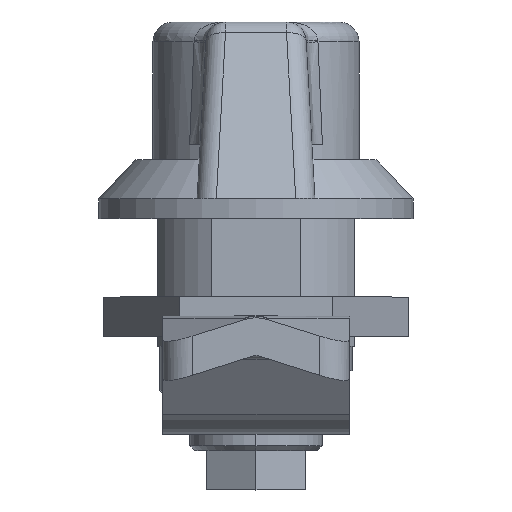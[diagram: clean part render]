
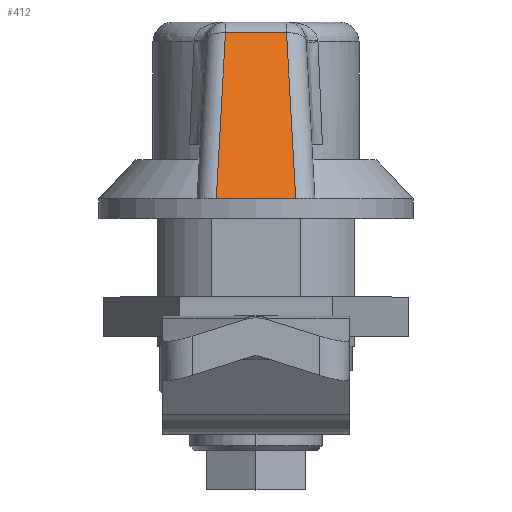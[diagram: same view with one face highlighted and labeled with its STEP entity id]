
A CAD part, top view. The second image highlights one B-rep face of the part: STEP entity #412.
In plain terms, the highlighted planar face has unit normal (0, 0.446, 0.895) as drawn and (-0.446, 0, 0.895) by its records, which use the part's own axes.
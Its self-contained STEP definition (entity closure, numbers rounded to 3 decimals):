
#62 = EDGE_CURVE ( 'NONE', #171, #2196, #4102, .T. ) ;
#171 = VERTEX_POINT ( 'NONE', #4827 ) ;
#356 = AXIS2_PLACEMENT_3D ( 'NONE', #6009, #4756, #3233 ) ;
#412 = ADVANCED_FACE ( 'NONE', ( #818 ), #1813, .F. ) ;
#603 = LINE ( 'NONE', #5228, #2036 ) ;
#628 = DIRECTION ( 'NONE',  ( 0., -1., 0. ) ) ;
#818 = FACE_OUTER_BOUND ( 'NONE', #3288, .T. ) ;
#1084 = DIRECTION ( 'NONE',  ( 0., -1., 0. ) ) ;
#1227 = EDGE_CURVE ( 'NONE', #3459, #5066, #5456, .T. ) ;
#1451 = CARTESIAN_POINT ( 'NONE',  ( -23.5, -4.046, 25. ) ) ;
#1629 = EDGE_CURVE ( 'NONE', #171, #5066, #603, .T. ) ;
#1813 = PLANE ( 'NONE',  #356 ) ;
#2036 = VECTOR ( 'NONE', #1084, 1000. ) ;
#2164 = VECTOR ( 'NONE', #4139, 1000. ) ;
#2196 = VERTEX_POINT ( 'NONE', #2841 ) ;
#2360 = ORIENTED_EDGE ( 'NONE', *, *, #62, .T. ) ;
#2841 = CARTESIAN_POINT ( 'NONE',  ( -40.392, 3.108, 16.578 ) ) ;
#3085 = CARTESIAN_POINT ( 'NONE',  ( -40.392, 6., 16.578 ) ) ;
#3108 = CARTESIAN_POINT ( 'NONE',  ( -41.902, -3.024, 15.825 ) ) ;
#3233 = DIRECTION ( 'NONE',  ( -0.895, 0., -0.446 ) ) ;
#3288 = EDGE_LOOP ( 'NONE', ( #4064, #2360, #3700, #3306 ) ) ;
#3306 = ORIENTED_EDGE ( 'NONE', *, *, #1227, .T. ) ;
#3459 = VERTEX_POINT ( 'NONE', #5077 ) ;
#3547 = VECTOR ( 'NONE', #628, 1000. ) ;
#3700 = ORIENTED_EDGE ( 'NONE', *, *, #5710, .T. ) ;
#4064 = ORIENTED_EDGE ( 'NONE', *, *, #1629, .F. ) ;
#4102 = LINE ( 'NONE', #4621, #2164 ) ;
#4139 = DIRECTION ( 'NONE',  ( -0.894, -0.05, -0.446 ) ) ;
#4621 = CARTESIAN_POINT ( 'NONE',  ( -41.369, 3.054, 16.091 ) ) ;
#4756 = DIRECTION ( 'NONE',  ( 0.446, 0., -0.895 ) ) ;
#4827 = CARTESIAN_POINT ( 'NONE',  ( -23.5, 4.046, 25. ) ) ;
#4839 = LINE ( 'NONE', #3085, #3547 ) ;
#4983 = DIRECTION ( 'NONE',  ( 0.894, -0.05, 0.446 ) ) ;
#5066 = VERTEX_POINT ( 'NONE', #1451 ) ;
#5077 = CARTESIAN_POINT ( 'NONE',  ( -40.392, -3.108, 16.578 ) ) ;
#5228 = CARTESIAN_POINT ( 'NONE',  ( -23.5, 6., 25. ) ) ;
#5456 = LINE ( 'NONE', #3108, #5650 ) ;
#5650 = VECTOR ( 'NONE', #4983, 1000. ) ;
#5710 = EDGE_CURVE ( 'NONE', #2196, #3459, #4839, .T. ) ;
#6009 = CARTESIAN_POINT ( 'NONE',  ( -41.5, 6., 16.026 ) ) ;
